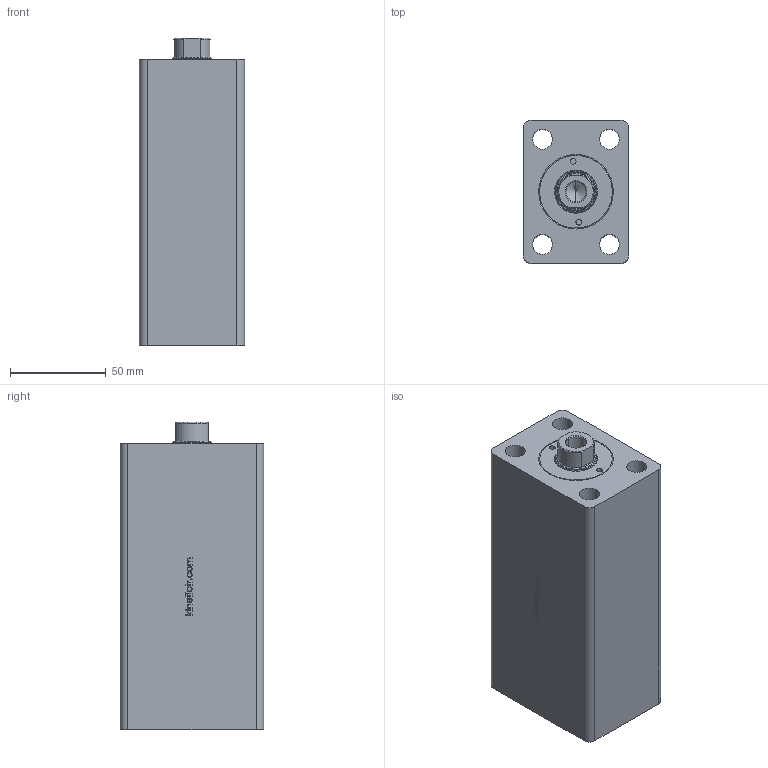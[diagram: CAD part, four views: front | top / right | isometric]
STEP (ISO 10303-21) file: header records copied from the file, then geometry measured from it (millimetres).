
FILE_DESCRIPTION (( 'STEP AP214' ), '1' );
FILE_NAME ('KBZ_02_32_20_100_WEB.STEP', '2020-05-27T09:25:30', ( '' ), ( '' ), 'SwSTEP 2.0', 'SolidWorks 2018', '' );
FILE_SCHEMA (( 'AUTOMOTIVE_DESIGN' ));
Length unit declared in the file: millimetre
Products named in the file (5): K06-20X25X4_3X6; 20_K_MIL; KBZ_02_32_GOVDE; KBZ_02_32_ON_kapak_WEB; KBZ_02_32_20_100_WEB
Assembly tree (4 placements, depth 2):
  KBZ_02_32_20_100_WEB
    KBZ_02_32_GOVDE
    20_K_MIL
    KBZ_02_32_ON_kapak_WEB
    K06-20X25X4_3X6
Bounding box: 55 x 75 x 161 mm (x, y, z)
Volume: 538277.9 mm3; surface area: 84618.5 mm2
Topology: 4 solids, 4 shells, 341 faces, 825 edges, 526 vertices
Faces by surface type: plane 133, cylinder 72, bspline 69, cone 67
Entity records: 13510 total; most frequent: CARTESIAN_POINT 5543, ORIENTED_EDGE 1646, DIRECTION 1438, EDGE_CURVE 823, VERTEX_POINT 526, AXIS2_PLACEMENT_3D 491, VECTOR 456, LINE 456
